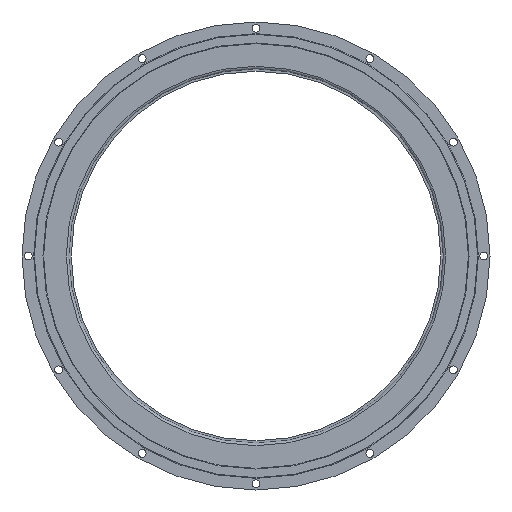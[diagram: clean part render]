
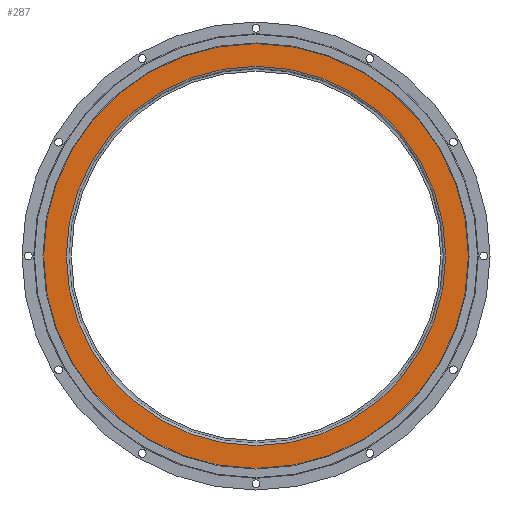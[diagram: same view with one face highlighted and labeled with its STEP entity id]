
A CAD part, left-side view. The second image highlights one B-rep face of the part: STEP entity #287.
In plain terms, the highlighted planar face has unit normal (-1, 0, 0).
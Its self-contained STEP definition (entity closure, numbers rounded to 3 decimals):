
#287=ADVANCED_FACE('',(#632,#634),#636,.T.);
#632=FACE_BOUND('',#633,.T.);
#633=EDGE_LOOP('',(#771));
#634=FACE_BOUND('',#635,.T.);
#635=EDGE_LOOP('',(#772));
#636=PLANE('',#637);
#637=AXIS2_PLACEMENT_3D('',#638,#639,#640);
#638=CARTESIAN_POINT('',(-40.,0.,0.));
#639=DIRECTION('',(-1.,0.,0.));
#640=DIRECTION('',(0.,0.,1.));
#771=ORIENTED_EDGE('',*,*,#822,.T.);
#772=ORIENTED_EDGE('',*,*,#824,.F.);
#822=EDGE_CURVE('',#904,#904,#905,.T.);
#824=EDGE_CURVE('',#908,#908,#909,.T.);
#904=VERTEX_POINT('',#1105);
#905=CIRCLE('',#1106,172.5);
#908=VERTEX_POINT('',#1115);
#909=CIRCLE('',#1116,154.);
#1105=CARTESIAN_POINT('',(-40.,0.,172.5));
#1106=AXIS2_PLACEMENT_3D('',#1107,#1108,#1109);
#1107=CARTESIAN_POINT('',(-40.,0.,0.));
#1108=DIRECTION('',(-1.,0.,0.));
#1109=DIRECTION('',(0.,0.,1.));
#1115=CARTESIAN_POINT('',(-40.,0.,154.));
#1116=AXIS2_PLACEMENT_3D('',#1117,#1118,#1119);
#1117=CARTESIAN_POINT('',(-40.,0.,0.));
#1118=DIRECTION('',(-1.,0.,0.));
#1119=DIRECTION('',(0.,0.,1.));
